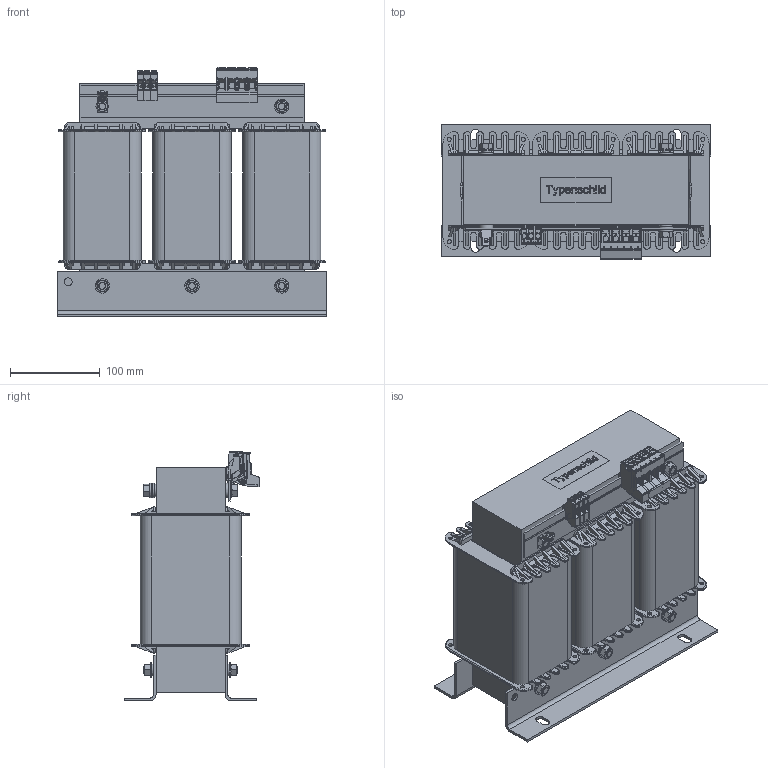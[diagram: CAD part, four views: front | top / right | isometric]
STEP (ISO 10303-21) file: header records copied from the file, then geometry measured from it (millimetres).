
FILE_DESCRIPTION(/* description */ (''),/* implementation_level */ '2;1');
FILE_NAME(/* name */ 'DT5,0 200-1000V--110V.stp',/* time_stamp */ '2023-09-21T08:37:21+02:00',/* author */ ('CERNY'),/* organization */ (''),/* preprocessor_version */ 'ST-DEVELOPER v19.2',/* originating_system */ 'Autodesk Inventor 2023',/* authorisation */ '');
FILE_SCHEMA (('AUTOMOTIVE_DESIGN { 1 0 10303 214 3 1 1 }'));
Products named in the file (1): X0001 DT 007
Bounding box: 300 x 150.15 x 278.2 mm (x, y, z)
Volume: 6404840.9 mm3; surface area: 952810.2 mm2
Topology: 4 solids, 4 shells, 7723 faces, 21342 edges, 13734 vertices
Faces by surface type: plane 5727, cylinder 1295, bspline 342, torus 273, cone 45, sphere 41
Full cylindrical faces by diameter (mm): 4 x1, 4.5 x24, 5 x1, 8 x8, 8.1 x3, 8.4 x7, 9 x4, 9.8 x3, 11 x3, 14 x9, 16 x13
Entity records: 258949 total; most frequent: CARTESIAN_POINT 56455, ORIENTED_EDGE 42658, DIRECTION 38769, EDGE_CURVE 21329, LINE 17423, VECTOR 17423, VERTEX_POINT 13734, AXIS2_PLACEMENT_3D 10673
